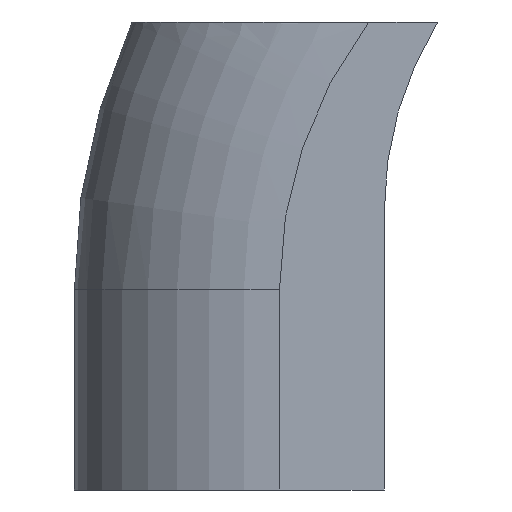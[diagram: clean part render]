
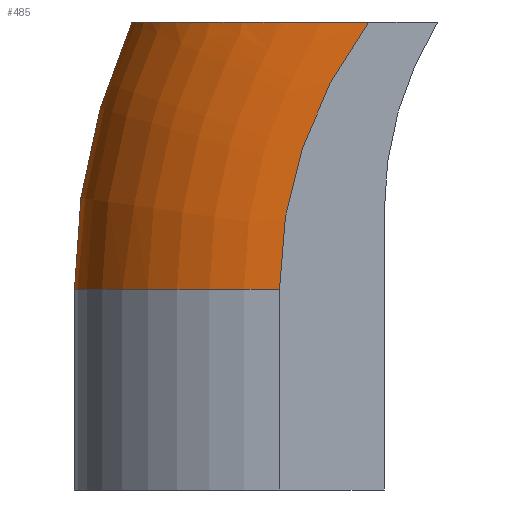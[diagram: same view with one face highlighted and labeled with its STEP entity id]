
A CAD part, front view. The second image highlights one B-rep face of the part: STEP entity #485.
In plain terms, the highlighted toroidal (fillet/blend) face has major radius 20 mm and minor radius 9.2 mm.
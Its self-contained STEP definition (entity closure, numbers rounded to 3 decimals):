
#22 = VERTEX_POINT('',#23);
#23 = CARTESIAN_POINT('',(-36.,-14.4,47.));
#32 = CYLINDRICAL_SURFACE('',#33,9.2);
#33 = AXIS2_PLACEMENT_3D('',#34,#35,#36);
#34 = CARTESIAN_POINT('',(-36.,-5.2,47.));
#35 = DIRECTION('',(-0.,-0.,-1.));
#36 = DIRECTION('',(0.,-1.,0.));
#44 = PLANE('',#45);
#45 = AXIS2_PLACEMENT_3D('',#46,#47,#48);
#46 = CARTESIAN_POINT('',(-45.2,-14.4,-76.2));
#47 = DIRECTION('',(0.,1.,0.));
#48 = DIRECTION('',(0.,-0.,1.));
#56 = EDGE_CURVE('',#22,#57,#59,.T.);
#57 = VERTEX_POINT('',#58);
#58 = CARTESIAN_POINT('',(-45.2,-5.2,47.));
#59 = SURFACE_CURVE('',#60,(#65,#71),.PCURVE_S1.);
#60 = CIRCLE('',#61,9.2);
#61 = AXIS2_PLACEMENT_3D('',#62,#63,#64);
#62 = CARTESIAN_POINT('',(-36.,-5.2,47.));
#63 = DIRECTION('',(0.,0.,-1.));
#64 = DIRECTION('',(-1.,0.,0.));
#65 = PCURVE('',#32,#66);
#66 = DEFINITIONAL_REPRESENTATION('',(#67),#70);
#67 = B_SPLINE_CURVE_WITH_KNOTS('',1,(#68,#69),.UNSPECIFIED.,.F.,.F.,(2,
    2),(4.712,6.283),.PIECEWISE_BEZIER_KNOTS.);
#68 = CARTESIAN_POINT('',(0.,0.));
#69 = CARTESIAN_POINT('',(1.571,0.));
#70 = ( GEOMETRIC_REPRESENTATION_CONTEXT(2) 
PARAMETRIC_REPRESENTATION_CONTEXT() REPRESENTATION_CONTEXT('2D SPACE',''
  ) );
#71 = PCURVE('',#72,#77);
#72 = TOROIDAL_SURFACE('',#73,20.,9.2);
#73 = AXIS2_PLACEMENT_3D('',#74,#75,#76);
#74 = CARTESIAN_POINT('',(-16.,-5.2,47.));
#75 = DIRECTION('',(0.,1.,0.));
#76 = DIRECTION('',(0.,0.,1.));
#77 = DEFINITIONAL_REPRESENTATION('',(#78),#81);
#78 = B_SPLINE_CURVE_WITH_KNOTS('',1,(#79,#80),.UNSPECIFIED.,.F.,.F.,(2,
    2),(4.712,6.283),.PIECEWISE_BEZIER_KNOTS.);
#79 = CARTESIAN_POINT('',(4.712,4.712));
#80 = CARTESIAN_POINT('',(4.712,6.283));
#81 = ( GEOMETRIC_REPRESENTATION_CONTEXT(2) 
PARAMETRIC_REPRESENTATION_CONTEXT() REPRESENTATION_CONTEXT('2D SPACE',''
  ) );
#167 = EDGE_CURVE('',#168,#22,#170,.T.);
#168 = VERTEX_POINT('',#169);
#169 = CARTESIAN_POINT('',(-32.,-14.4,59.));
#170 = SURFACE_CURVE('',#171,(#176,#187),.PCURVE_S1.);
#171 = CIRCLE('',#172,20.);
#172 = AXIS2_PLACEMENT_3D('',#173,#174,#175);
#173 = CARTESIAN_POINT('',(-16.,-14.4,47.));
#174 = DIRECTION('',(-0.,-1.,0.));
#175 = DIRECTION('',(0.,0.,1.));
#176 = PCURVE('',#44,#177);
#177 = DEFINITIONAL_REPRESENTATION('',(#178),#186);
#178 = ( BOUNDED_CURVE() B_SPLINE_CURVE(2,(#179,#180,#181,#182,#183,#184
,#185),.UNSPECIFIED.,.T.,.F.) B_SPLINE_CURVE_WITH_KNOTS((1,2,2,2,2,1),(
    -2.094,0.,2.094,4.189,6.283,
8.378),.UNSPECIFIED.) CURVE() GEOMETRIC_REPRESENTATION_ITEM() 
RATIONAL_B_SPLINE_CURVE((1.,0.5,1.,0.5,1.,0.5,1.)) REPRESENTATION_ITEM(
  '') );
#179 = CARTESIAN_POINT('',(143.2,29.2));
#180 = CARTESIAN_POINT('',(143.2,-5.441));
#181 = CARTESIAN_POINT('',(113.2,11.879));
#182 = CARTESIAN_POINT('',(83.2,29.2));
#183 = CARTESIAN_POINT('',(113.2,46.521));
#184 = CARTESIAN_POINT('',(143.2,63.841));
#185 = CARTESIAN_POINT('',(143.2,29.2));
#186 = ( GEOMETRIC_REPRESENTATION_CONTEXT(2) 
PARAMETRIC_REPRESENTATION_CONTEXT() REPRESENTATION_CONTEXT('2D SPACE',''
  ) );
#187 = PCURVE('',#72,#188);
#188 = DEFINITIONAL_REPRESENTATION('',(#189),#193);
#189 = LINE('',#190,#191);
#190 = CARTESIAN_POINT('',(6.283,4.712));
#191 = VECTOR('',#192,1.);
#192 = DIRECTION('',(-1.,0.));
#193 = ( GEOMETRIC_REPRESENTATION_CONTEXT(2) 
PARAMETRIC_REPRESENTATION_CONTEXT() REPRESENTATION_CONTEXT('2D SPACE',''
  ) );
#210 = PLANE('',#211);
#211 = AXIS2_PLACEMENT_3D('',#212,#213,#214);
#212 = CARTESIAN_POINT('',(-46.,-15.,59.));
#213 = DIRECTION('',(0.,0.,1.));
#214 = DIRECTION('',(1.,0.,0.));
#451 = CYLINDRICAL_SURFACE('',#452,29.2);
#452 = AXIS2_PLACEMENT_3D('',#453,#454,#455);
#453 = CARTESIAN_POINT('',(-16.,-14.4,47.));
#454 = DIRECTION('',(0.,1.,0.));
#455 = DIRECTION('',(-1.,0.,0.));
#485 = ADVANCED_FACE('',(#486),#72,.T.);
#486 = FACE_BOUND('',#487,.T.);
#487 = EDGE_LOOP('',(#488,#580,#602,#603));
#488 = ORIENTED_EDGE('',*,*,#489,.T.);
#489 = EDGE_CURVE('',#168,#490,#492,.T.);
#490 = VERTEX_POINT('',#491);
#491 = CARTESIAN_POINT('',(-42.62,-5.2,59.));
#492 = SURFACE_CURVE('',#493,(#520,#550),.PCURVE_S1.);
#493 = B_SPLINE_CURVE_WITH_KNOTS('',7,(#494,#495,#496,#497,#498,#499,
    #500,#501,#502,#503,#504,#505,#506,#507,#508,#509,#510,#511,#512,
    #513,#514,#515,#516,#517,#518,#519),.UNSPECIFIED.,.F.,.F.,(8,6,6,6,8
    ),(0.,0.355,0.565,0.699,1.),
  .UNSPECIFIED.);
#494 = CARTESIAN_POINT('',(-32.,-14.4,59.));
#495 = CARTESIAN_POINT('',(-32.795,-14.4,59.));
#496 = CARTESIAN_POINT('',(-33.589,-14.349,59.));
#497 = CARTESIAN_POINT('',(-34.38,-14.242,59.));
#498 = CARTESIAN_POINT('',(-35.162,-14.078,59.));
#499 = CARTESIAN_POINT('',(-35.928,-13.852,59.));
#500 = CARTESIAN_POINT('',(-36.671,-13.563,59.));
#501 = CARTESIAN_POINT('',(-37.805,-13.006,59.));
#502 = CARTESIAN_POINT('',(-38.215,-12.777,59.));
#503 = CARTESIAN_POINT('',(-38.612,-12.526,59.));
#504 = CARTESIAN_POINT('',(-38.996,-12.255,59.));
#505 = CARTESIAN_POINT('',(-39.364,-11.962,59.));
#506 = CARTESIAN_POINT('',(-39.714,-11.649,59.));
#507 = CARTESIAN_POINT('',(-40.256,-11.103,59.));
#508 = CARTESIAN_POINT('',(-40.46,-10.882,59.));
#509 = CARTESIAN_POINT('',(-40.655,-10.654,59.));
#510 = CARTESIAN_POINT('',(-40.842,-10.418,59.));
#511 = CARTESIAN_POINT('',(-41.019,-10.175,59.));
#512 = CARTESIAN_POINT('',(-41.187,-9.926,59.));
#513 = CARTESIAN_POINT('',(-41.696,-9.097,59.));
#514 = CARTESIAN_POINT('',(-41.998,-8.492,59.));
#515 = CARTESIAN_POINT('',(-42.244,-7.862,59.));
#516 = CARTESIAN_POINT('',(-42.432,-7.211,59.));
#517 = CARTESIAN_POINT('',(-42.557,-6.545,59.));
#518 = CARTESIAN_POINT('',(-42.62,-5.872,59.));
#519 = CARTESIAN_POINT('',(-42.62,-5.2,59.));
#520 = PCURVE('',#72,#521);
#521 = DEFINITIONAL_REPRESENTATION('',(#522),#549);
#522 = B_SPLINE_CURVE_WITH_KNOTS('',7,(#523,#524,#525,#526,#527,#528,
    #529,#530,#531,#532,#533,#534,#535,#536,#537,#538,#539,#540,#541,
    #542,#543,#544,#545,#546,#547,#548),.UNSPECIFIED.,.F.,.F.,(8,6,6,6,8
    ),(0.,0.355,0.565,0.699,1.),
  .UNSPECIFIED.);
#523 = CARTESIAN_POINT('',(5.356,4.712));
#524 = CARTESIAN_POINT('',(5.332,4.781));
#525 = CARTESIAN_POINT('',(5.31,4.852));
#526 = CARTESIAN_POINT('',(5.29,4.924));
#527 = CARTESIAN_POINT('',(5.271,4.997));
#528 = CARTESIAN_POINT('',(5.254,5.072));
#529 = CARTESIAN_POINT('',(5.238,5.149));
#530 = CARTESIAN_POINT('',(5.215,5.272));
#531 = CARTESIAN_POINT('',(5.207,5.318));
#532 = CARTESIAN_POINT('',(5.2,5.365));
#533 = CARTESIAN_POINT('',(5.193,5.412));
#534 = CARTESIAN_POINT('',(5.187,5.46));
#535 = CARTESIAN_POINT('',(5.181,5.508));
#536 = CARTESIAN_POINT('',(5.172,5.587));
#537 = CARTESIAN_POINT('',(5.168,5.618));
#538 = CARTESIAN_POINT('',(5.165,5.649));
#539 = CARTESIAN_POINT('',(5.162,5.681));
#540 = CARTESIAN_POINT('',(5.16,5.712));
#541 = CARTESIAN_POINT('',(5.157,5.744));
#542 = CARTESIAN_POINT('',(5.149,5.847));
#543 = CARTESIAN_POINT('',(5.145,5.919));
#544 = CARTESIAN_POINT('',(5.141,5.991));
#545 = CARTESIAN_POINT('',(5.139,6.064));
#546 = CARTESIAN_POINT('',(5.137,6.137));
#547 = CARTESIAN_POINT('',(5.136,6.21));
#548 = CARTESIAN_POINT('',(5.136,6.283));
#549 = ( GEOMETRIC_REPRESENTATION_CONTEXT(2) 
PARAMETRIC_REPRESENTATION_CONTEXT() REPRESENTATION_CONTEXT('2D SPACE',''
  ) );
#550 = PCURVE('',#210,#551);
#551 = DEFINITIONAL_REPRESENTATION('',(#552),#579);
#552 = B_SPLINE_CURVE_WITH_KNOTS('',7,(#553,#554,#555,#556,#557,#558,
    #559,#560,#561,#562,#563,#564,#565,#566,#567,#568,#569,#570,#571,
    #572,#573,#574,#575,#576,#577,#578),.UNSPECIFIED.,.F.,.F.,(8,6,6,6,8
    ),(0.,0.355,0.565,0.699,1.),
  .UNSPECIFIED.);
#553 = CARTESIAN_POINT('',(14.,0.6));
#554 = CARTESIAN_POINT('',(13.205,0.6));
#555 = CARTESIAN_POINT('',(12.411,0.651));
#556 = CARTESIAN_POINT('',(11.62,0.758));
#557 = CARTESIAN_POINT('',(10.838,0.922));
#558 = CARTESIAN_POINT('',(10.072,1.148));
#559 = CARTESIAN_POINT('',(9.329,1.437));
#560 = CARTESIAN_POINT('',(8.195,1.994));
#561 = CARTESIAN_POINT('',(7.785,2.223));
#562 = CARTESIAN_POINT('',(7.388,2.474));
#563 = CARTESIAN_POINT('',(7.004,2.745));
#564 = CARTESIAN_POINT('',(6.636,3.038));
#565 = CARTESIAN_POINT('',(6.286,3.351));
#566 = CARTESIAN_POINT('',(5.744,3.897));
#567 = CARTESIAN_POINT('',(5.54,4.118));
#568 = CARTESIAN_POINT('',(5.345,4.346));
#569 = CARTESIAN_POINT('',(5.158,4.582));
#570 = CARTESIAN_POINT('',(4.981,4.825));
#571 = CARTESIAN_POINT('',(4.813,5.074));
#572 = CARTESIAN_POINT('',(4.304,5.903));
#573 = CARTESIAN_POINT('',(4.002,6.508));
#574 = CARTESIAN_POINT('',(3.756,7.138));
#575 = CARTESIAN_POINT('',(3.568,7.789));
#576 = CARTESIAN_POINT('',(3.443,8.455));
#577 = CARTESIAN_POINT('',(3.38,9.128));
#578 = CARTESIAN_POINT('',(3.38,9.8));
#579 = ( GEOMETRIC_REPRESENTATION_CONTEXT(2) 
PARAMETRIC_REPRESENTATION_CONTEXT() REPRESENTATION_CONTEXT('2D SPACE',''
  ) );
#580 = ORIENTED_EDGE('',*,*,#581,.T.);
#581 = EDGE_CURVE('',#490,#57,#582,.T.);
#582 = SURFACE_CURVE('',#583,(#588,#595),.PCURVE_S1.);
#583 = CIRCLE('',#584,29.2);
#584 = AXIS2_PLACEMENT_3D('',#585,#586,#587);
#585 = CARTESIAN_POINT('',(-16.,-5.2,47.));
#586 = DIRECTION('',(-0.,-1.,0.));
#587 = DIRECTION('',(0.,0.,1.));
#588 = PCURVE('',#72,#589);
#589 = DEFINITIONAL_REPRESENTATION('',(#590),#594);
#590 = LINE('',#591,#592);
#591 = CARTESIAN_POINT('',(6.283,6.283));
#592 = VECTOR('',#593,1.);
#593 = DIRECTION('',(-1.,0.));
#594 = ( GEOMETRIC_REPRESENTATION_CONTEXT(2) 
PARAMETRIC_REPRESENTATION_CONTEXT() REPRESENTATION_CONTEXT('2D SPACE',''
  ) );
#595 = PCURVE('',#451,#596);
#596 = DEFINITIONAL_REPRESENTATION('',(#597),#601);
#597 = LINE('',#598,#599);
#598 = CARTESIAN_POINT('',(1.571,9.2));
#599 = VECTOR('',#600,1.);
#600 = DIRECTION('',(-1.,-0.));
#601 = ( GEOMETRIC_REPRESENTATION_CONTEXT(2) 
PARAMETRIC_REPRESENTATION_CONTEXT() REPRESENTATION_CONTEXT('2D SPACE',''
  ) );
#602 = ORIENTED_EDGE('',*,*,#56,.F.);
#603 = ORIENTED_EDGE('',*,*,#167,.F.);
